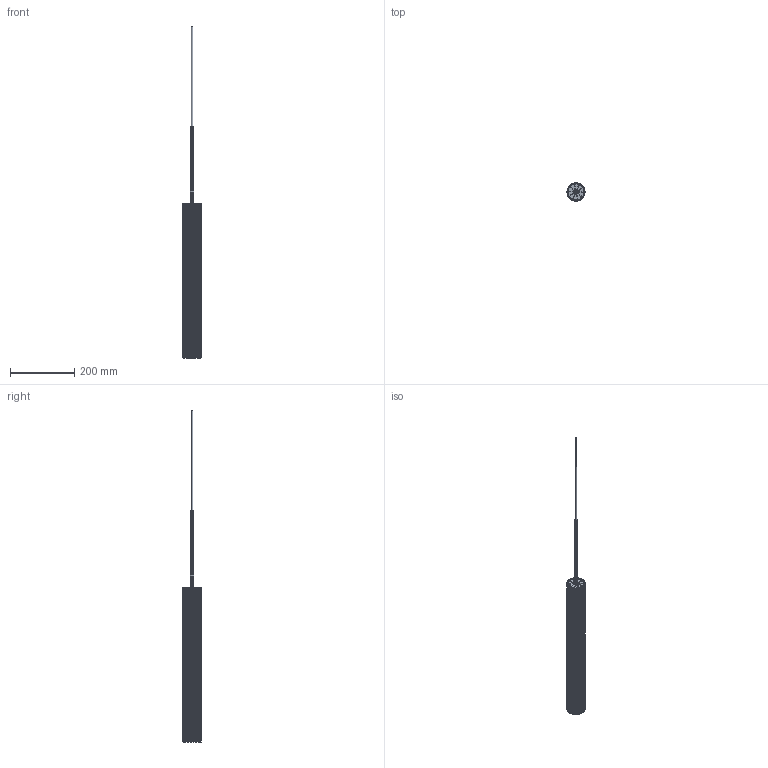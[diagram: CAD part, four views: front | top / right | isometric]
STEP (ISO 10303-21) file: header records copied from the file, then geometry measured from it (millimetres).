
FILE_DESCRIPTION(/* description */ (''),/* implementation_level */ '2;1');
FILE_NAME(/* name */ 'Tubulaire Pendant Large',/* time_stamp */ '2024-01-29T12:19:12+01:00',/* author */ (''),/* organization */ (''),/* preprocessor_version */ 'ST-DEVELOPER v16.5',/* originating_system */ 'Rhino 7.31',/* authorisation */ '');
FILE_SCHEMA (('AUTOMOTIVE_DESIGN'));
Length unit declared in the file: millimetre
Products named in the file (1): Document
Bounding box: 55.98 x 55.97 x 1030.45 mm (x, y, z)
Volume: 359311 mm3; surface area: 254460.7 mm2
Topology: 12 solids, 12 shells, 546 faces, 1488 edges, 975 vertices
Faces by surface type: cylinder 247, plane 199, bspline 100
Entity records: 41340 total; most frequent: CARTESIAN_POINT 31776, ORIENTED_EDGE 2970, EDGE_CURVE 1485, VERTEX_POINT 975, B_SPLINE_CURVE_WITH_KNOTS 879, EDGE_LOOP 596, ADVANCED_FACE 546, FACE_OUTER_BOUND 546
